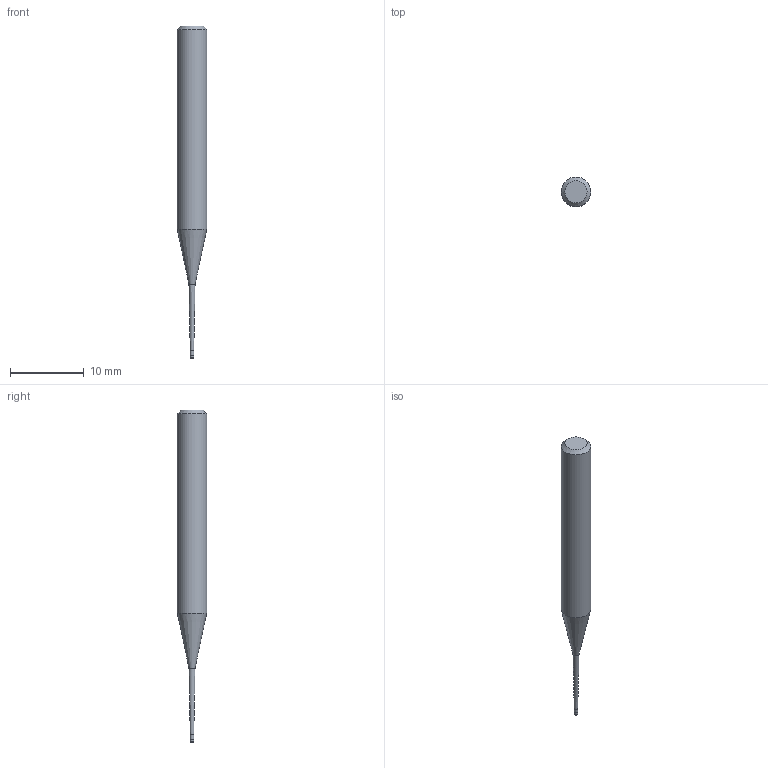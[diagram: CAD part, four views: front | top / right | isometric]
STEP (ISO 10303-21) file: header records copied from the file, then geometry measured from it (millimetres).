
FILE_DESCRIPTION((''),'2;1');
FILE_NAME('C:\Users\nsx150\AppData\Local\Temp\Mastercam 2021\YKS1SUSFZB\TEMP.step','2025-06-23T14:03:41',(''),(''),'STEP Write','Mastercam 2021 ... CNC Software, Inc.','');
FILE_SCHEMA(('AUTOMOTIVE_DESIGN'));
Length unit declared in the file: millimetre
Products named in the file (1): None
Bounding box: 4 x 4 x 45 mm (x, y, z)
Volume: 386.7 mm3; surface area: 432.7 mm2
Topology: 2 solids, 2 shells, 11 faces, 16 edges, 9 vertices
Faces by surface type: plane 4, cylinder 3, cone 3, torus 1
Full cylindrical faces by diameter (mm): 0.48 x1, 0.5 x1, 4 x1
Entity records: 253 total; most frequent: DIRECTION 44, CARTESIAN_POINT 31, AXIS2_PLACEMENT_3D 22, ORIENTED_EDGE 18, EDGE_LOOP 18, STYLED_ITEM 14, ADVANCED_FACE 11, FACE_BOUND 11
